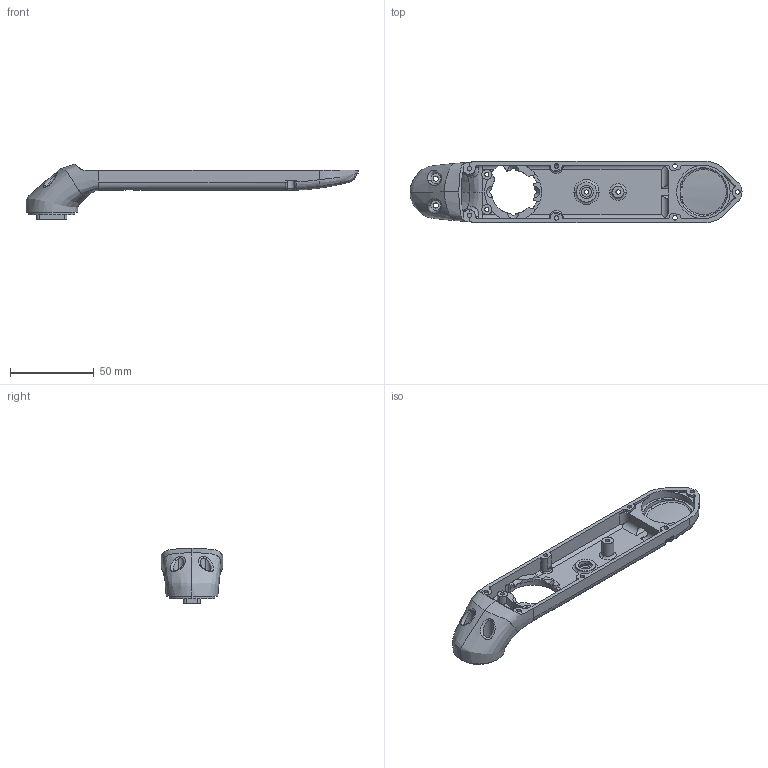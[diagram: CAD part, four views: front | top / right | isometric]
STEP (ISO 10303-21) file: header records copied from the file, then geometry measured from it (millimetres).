
FILE_DESCRIPTION (( 'STEP AP214' ), '1' );
FILE_NAME ('upper_leg_module_shell_base.STEP', '2020-10-14T12:00:48', ( '' ), ( '' ), 'SwSTEP 2.0', 'SolidWorks 2017', '' );
FILE_SCHEMA (( 'AUTOMOTIVE_DESIGN' ));
Length unit declared in the file: millimetre
Products named in the file (1): upper_leg_module_shell_base
Bounding box: 198.6 x 37 x 33.11 mm (x, y, z)
Volume: 27216.6 mm3; surface area: 26705.9 mm2
Topology: 1 solids, 1 shells, 336 faces, 947 edges, 616 vertices
Faces by surface type: cylinder 148, plane 91, bspline 72, torus 20, cone 5
Entity records: 51457 total; most frequent: CARTESIAN_POINT 43239, ORIENTED_EDGE 1886, DIRECTION 1538, EDGE_CURVE 943, VERTEX_POINT 616, AXIS2_PLACEMENT_3D 612, EDGE_LOOP 367, CIRCLE 347
